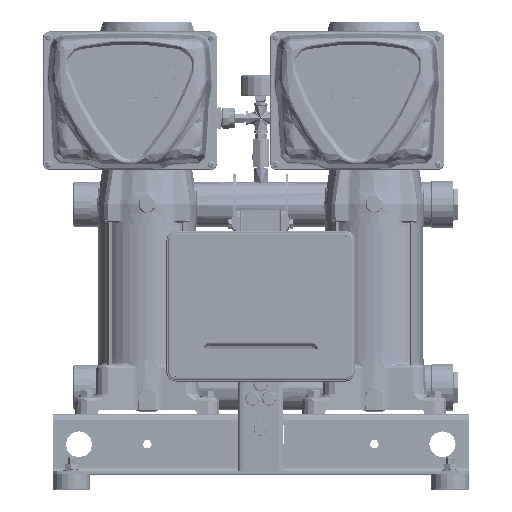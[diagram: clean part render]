
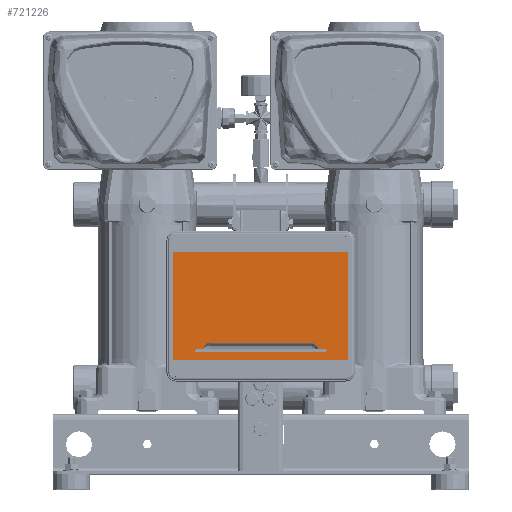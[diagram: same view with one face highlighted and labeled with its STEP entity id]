
A CAD part, top view. The second image highlights one B-rep face of the part: STEP entity #721226.
In plain terms, the highlighted planar face has unit normal (0, 0, 1).
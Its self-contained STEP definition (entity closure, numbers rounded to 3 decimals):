
#717833=DIRECTION('',(1.,0.,0.));
#717834=VECTOR('',#717833,231.);
#717835=CARTESIAN_POINT('',(-115.5,-71.5,112.5));
#717836=LINE('',#717835,#717834);
#717840=DIRECTION('',(0.,-1.,0.));
#717841=VECTOR('',#717840,143.);
#717842=CARTESIAN_POINT('',(-115.5,71.5,112.5));
#717843=LINE('',#717842,#717841);
#717847=DIRECTION('',(-1.,0.,0.));
#717848=VECTOR('',#717847,231.);
#717849=CARTESIAN_POINT('',(115.5,71.5,112.5));
#717850=LINE('',#717849,#717848);
#717854=DIRECTION('',(0.,1.,0.));
#717855=VECTOR('',#717854,143.);
#717856=CARTESIAN_POINT('',(115.5,-71.5,112.5));
#717857=LINE('',#717856,#717855);
#717861=DIRECTION('',(-1.,0.,0.));
#717862=VECTOR('',#717861,10.);
#717863=CARTESIAN_POINT('',(-75.85,-57.2,112.5));
#717864=LINE('',#717863,#717862);
#717868=CARTESIAN_POINT('',(-85.85,-58.85,112.5));
#717869=DIRECTION('',(0.,0.,1.));
#717870=DIRECTION('',(0.,1.,0.));
#717871=AXIS2_PLACEMENT_3D('',#717868,#717869,#717870);
#717876=DIRECTION('',(1.,0.,0.));
#717877=VECTOR('',#717876,171.7);
#717878=CARTESIAN_POINT('',(-85.85,-60.5,112.5));
#717879=LINE('',#717878,#717877);
#717883=CARTESIAN_POINT('',(85.85,-58.85,112.5));
#717884=DIRECTION('',(0.,0.,1.));
#717885=DIRECTION('',(0.,-1.,0.));
#717886=AXIS2_PLACEMENT_3D('',#717883,#717884,#717885);
#717891=DIRECTION('',(-1.,0.,0.));
#717892=VECTOR('',#717891,10.);
#717893=CARTESIAN_POINT('',(85.85,-57.2,112.5));
#717894=LINE('',#717893,#717892);
#717898=CARTESIAN_POINT('',(67.15,-57.2,112.5));
#717899=DIRECTION('',(0.,0.,-1.));
#717900=DIRECTION('',(0.,1.,0.));
#717901=AXIS2_PLACEMENT_3D('',#717898,#717899,#717900);
#717906=DIRECTION('',(1.,0.,0.));
#717907=VECTOR('',#717906,134.3);
#717908=CARTESIAN_POINT('',(-67.15,-48.5,112.5));
#717909=LINE('',#717908,#717907);
#717913=CARTESIAN_POINT('',(-67.15,-57.2,112.5));
#717914=DIRECTION('',(0.,0.,-1.));
#717915=DIRECTION('',(-1.,0.,0.));
#717916=AXIS2_PLACEMENT_3D('',#717913,#717914,#717915);
#718614=CARTESIAN_POINT('',(-115.5,-71.5,112.5));
#718615=CARTESIAN_POINT('',(115.5,-71.5,112.5));
#718616=VERTEX_POINT('',#718614);
#718617=VERTEX_POINT('',#718615);
#718618=CARTESIAN_POINT('',(115.5,71.5,112.5));
#718619=VERTEX_POINT('',#718618);
#718620=CARTESIAN_POINT('',(-115.5,71.5,112.5));
#718621=VERTEX_POINT('',#718620);
#718646=CARTESIAN_POINT('',(-85.85,-60.5,112.5));
#718647=CARTESIAN_POINT('',(85.85,-60.5,112.5));
#718648=VERTEX_POINT('',#718646);
#718649=VERTEX_POINT('',#718647);
#718650=CARTESIAN_POINT('',(85.85,-57.2,112.5));
#718651=VERTEX_POINT('',#718650);
#718652=CARTESIAN_POINT('',(-85.85,-57.2,112.5));
#718653=VERTEX_POINT('',#718652);
#718670=CARTESIAN_POINT('',(-75.85,-57.2,112.5));
#718671=CARTESIAN_POINT('',(-67.15,-48.5,112.5));
#718672=VERTEX_POINT('',#718670);
#718673=VERTEX_POINT('',#718671);
#718674=CARTESIAN_POINT('',(67.15,-48.5,112.5));
#718675=VERTEX_POINT('',#718674);
#718676=CARTESIAN_POINT('',(75.85,-57.2,112.5));
#718677=VERTEX_POINT('',#718676);
#721194=CARTESIAN_POINT('',(0.,0.,112.5));
#721195=DIRECTION('',(0.,0.,1.));
#721196=DIRECTION('',(1.,0.,0.));
#721197=AXIS2_PLACEMENT_3D('',#721194,#721195,#721196);
#721198=PLANE('',#721197);
#721199=ORIENTED_EDGE('',*,*,#721172,.F.);
#721201=ORIENTED_EDGE('',*,*,#721200,.F.);
#721203=ORIENTED_EDGE('',*,*,#721202,.F.);
#721205=ORIENTED_EDGE('',*,*,#721204,.F.);
#721206=EDGE_LOOP('',(#721199,#721201,#721203,#721205));
#721207=FACE_OUTER_BOUND('',#721206,.F.);
#721209=ORIENTED_EDGE('',*,*,#721208,.T.);
#721211=ORIENTED_EDGE('',*,*,#721210,.T.);
#721213=ORIENTED_EDGE('',*,*,#721212,.T.);
#721215=ORIENTED_EDGE('',*,*,#721214,.T.);
#721217=ORIENTED_EDGE('',*,*,#721216,.T.);
#721219=ORIENTED_EDGE('',*,*,#721218,.F.);
#721221=ORIENTED_EDGE('',*,*,#721220,.F.);
#721223=ORIENTED_EDGE('',*,*,#721222,.F.);
#721224=EDGE_LOOP('',(#721209,#721211,#721213,#721215,#721217,#721219,#721221,
#721223));
#721225=FACE_BOUND('',#721224,.F.);
#717872=CIRCLE('',#717871,1.65);
#717887=CIRCLE('',#717886,1.65);
#717902=CIRCLE('',#717901,8.7);
#717917=CIRCLE('',#717916,8.7);
#721172=EDGE_CURVE('',#718616,#718617,#717836,.T.);
#721200=EDGE_CURVE('',#718621,#718616,#717843,.T.);
#721202=EDGE_CURVE('',#718619,#718621,#717850,.T.);
#721204=EDGE_CURVE('',#718617,#718619,#717857,.T.);
#721208=EDGE_CURVE('',#718672,#718653,#717864,.T.);
#721210=EDGE_CURVE('',#718653,#718648,#717872,.T.);
#721212=EDGE_CURVE('',#718648,#718649,#717879,.T.);
#721214=EDGE_CURVE('',#718649,#718651,#717887,.T.);
#721216=EDGE_CURVE('',#718651,#718677,#717894,.T.);
#721218=EDGE_CURVE('',#718675,#718677,#717902,.T.);
#721220=EDGE_CURVE('',#718673,#718675,#717909,.T.);
#721222=EDGE_CURVE('',#718672,#718673,#717917,.T.);
#721226=ADVANCED_FACE('',(#721207,#721225),#721198,.T.);
